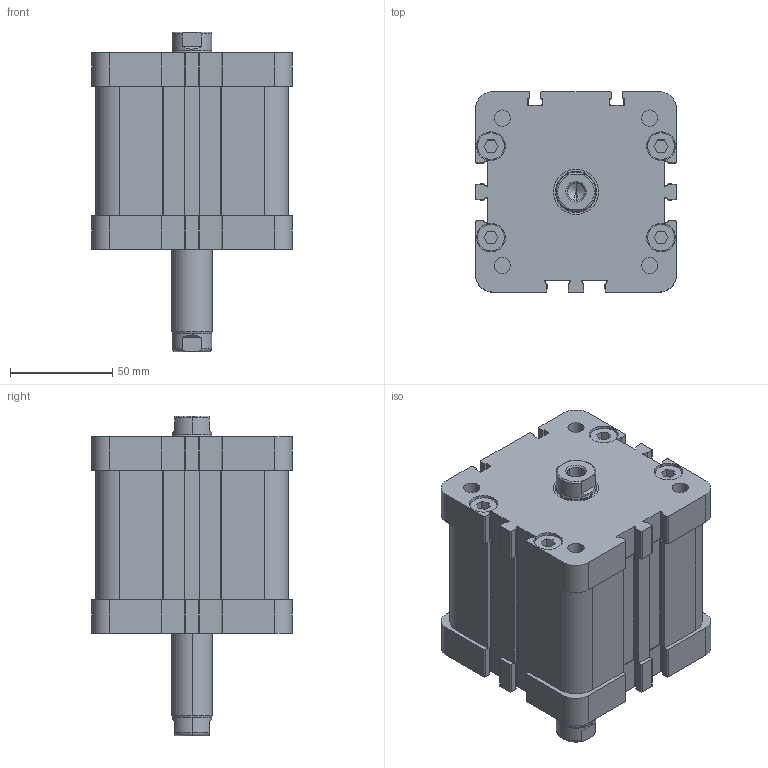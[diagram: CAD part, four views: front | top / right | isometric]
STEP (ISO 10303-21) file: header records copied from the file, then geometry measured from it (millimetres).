
FILE_DESCRIPTION((''),'2;1');
FILE_NAME('P11M40800040.stp','2010-02-26T19:01:54',('B. Petkovic 2010'),('AZ PNEUMATICA S.r.l.'),'Mechanical Desktop 2006','Mechanical Desktop 2006','Via Marco Biagi 6, I-20020 Misinto(MI) Italy, azpneu@tin.it');
FILE_SCHEMA(('CONFIG_CONTROL_DESIGN'));
Length unit declared in the file: millimetre
Products named in the file (2): P11M40800040; COMPACT CILINDRI
Assembly tree (1 placements, depth 2):
  P11M40800040
    COMPACT CILINDRI
Bounding box: 98 x 98 x 156 mm (x, y, z)
Volume: 827587.6 mm3; surface area: 82048.7 mm2
Topology: 1 solids, 1 shells, 554 faces, 1454 edges, 942 vertices
Faces by surface type: plane 330, cylinder 206, cone 12, torus 6
Entity records: 17341 total; most frequent: CARTESIAN_POINT 3116, DIRECTION 3070, ORIENTED_EDGE 2900, EDGE_CURVE 1450, AXIS2_PLACEMENT_3D 1070, VERTEX_POINT 942, VECTOR 930, LINE 930
